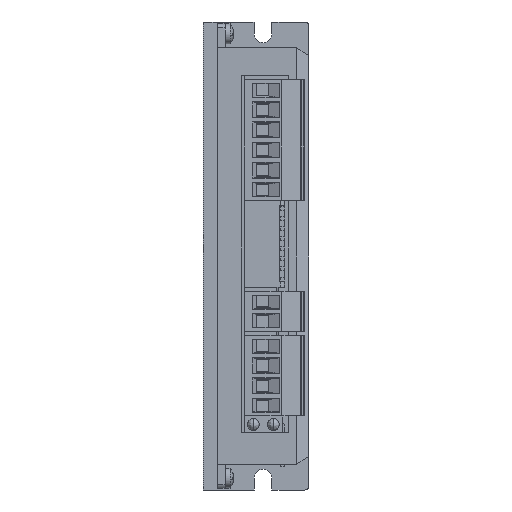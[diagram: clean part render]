
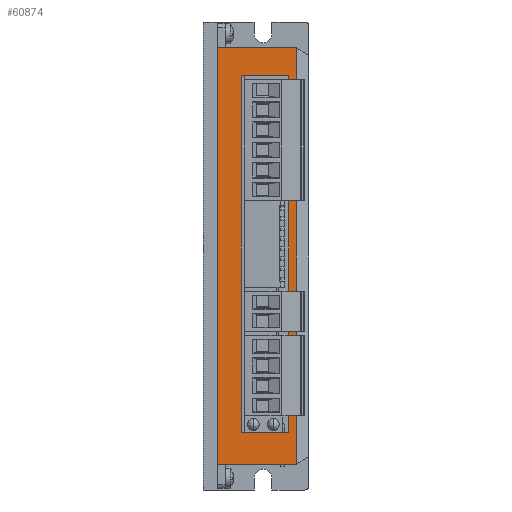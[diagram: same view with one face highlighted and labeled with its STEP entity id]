
A CAD part, front view. The second image highlights one B-rep face of the part: STEP entity #60874.
In plain terms, the highlighted planar face has unit normal (0, -1, 0) as drawn and (0, 0, 1) by its records, which use the part's own axes.
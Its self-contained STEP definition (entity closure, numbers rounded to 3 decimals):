
#186 = VERTEX_POINT ( 'NONE', #73413 ) ;
#622 = VECTOR ( 'NONE', #72008, 1000. ) ;
#3859 = DIRECTION ( 'NONE',  ( 0., 0., 1. ) ) ;
#5616 = VECTOR ( 'NONE', #38805, 1000. ) ;
#6799 = ORIENTED_EDGE ( 'NONE', *, *, #71949, .T. ) ;
#8024 = ORIENTED_EDGE ( 'NONE', *, *, #9293, .T. ) ;
#9171 = LINE ( 'NONE', #33129, #5616 ) ;
#9293 = EDGE_CURVE ( 'NONE', #51258, #64826, #45501, .T. ) ;
#10274 = LINE ( 'NONE', #20723, #70632 ) ;
#11614 = CARTESIAN_POINT ( 'NONE',  ( 52.5, 8.5, 72. ) ) ;
#11939 = VERTEX_POINT ( 'NONE', #73100 ) ;
#12489 = CARTESIAN_POINT ( 'NONE',  ( 52.5, 8.5, 72. ) ) ;
#12847 = EDGE_LOOP ( 'NONE', ( #42605, #8024, #51454, #6799 ) ) ;
#13806 = ORIENTED_EDGE ( 'NONE', *, *, #66854, .T. ) ;
#15055 = EDGE_LOOP ( 'NONE', ( #46915, #43273, #13806, #27266 ) ) ;
#15324 = FACE_BOUND ( 'NONE', #15055, .T. ) ;
#15791 = VECTOR ( 'NONE', #52722, 1000. ) ;
#17238 = CARTESIAN_POINT ( 'NONE',  ( 44.5, 6.5, 72. ) ) ;
#18547 = AXIS2_PLACEMENT_3D ( 'NONE', #20724, #3859, #43498 ) ;
#20723 = CARTESIAN_POINT ( 'NONE',  ( 44.5, -11.5, 72. ) ) ;
#20724 = CARTESIAN_POINT ( 'NONE',  ( 52.5, -11.5, 72. ) ) ;
#22017 = CARTESIAN_POINT ( 'NONE',  ( -45.5, -11.5, 72. ) ) ;
#22927 = EDGE_CURVE ( 'NONE', #186, #35649, #45847, .T. ) ;
#27266 = ORIENTED_EDGE ( 'NONE', *, *, #60527, .T. ) ;
#28641 = FACE_OUTER_BOUND ( 'NONE', #12847, .T. ) ;
#30429 = VECTOR ( 'NONE', #50460, 1000. ) ;
#33129 = CARTESIAN_POINT ( 'NONE',  ( 52.5, -5.5, 72. ) ) ;
#33790 = LINE ( 'NONE', #12489, #47112 ) ;
#35021 = VECTOR ( 'NONE', #43694, 1000. ) ;
#35625 = CARTESIAN_POINT ( 'NONE',  ( 52.5, -11.5, 72. ) ) ;
#35649 = VERTEX_POINT ( 'NONE', #17238 ) ;
#37926 = CARTESIAN_POINT ( 'NONE',  ( 52.5, 6.5, 72. ) ) ;
#37977 = CARTESIAN_POINT ( 'NONE',  ( 52.5, -11.5, 72. ) ) ;
#38749 = CARTESIAN_POINT ( 'NONE',  ( 44.5, -5.5, 72. ) ) ;
#38805 = DIRECTION ( 'NONE',  ( -1., 0., 0. ) ) ;
#40785 = CARTESIAN_POINT ( 'NONE',  ( 52.5, -11.5, 72. ) ) ;
#42605 = ORIENTED_EDGE ( 'NONE', *, *, #45466, .T. ) ;
#43273 = ORIENTED_EDGE ( 'NONE', *, *, #51976, .T. ) ;
#43498 = DIRECTION ( 'NONE',  ( 1., 0., 0. ) ) ;
#43694 = DIRECTION ( 'NONE',  ( 1., 0., 0. ) ) ;
#44608 = VECTOR ( 'NONE', #73402, 1000. ) ;
#45466 = EDGE_CURVE ( 'NONE', #51759, #51258, #33790, .T. ) ;
#45501 = LINE ( 'NONE', #55933, #30429 ) ;
#45847 = LINE ( 'NONE', #37926, #622 ) ;
#46099 = CARTESIAN_POINT ( 'NONE',  ( -52.5, 8.5, 72. ) ) ;
#46915 = ORIENTED_EDGE ( 'NONE', *, *, #22927, .T. ) ;
#47112 = VECTOR ( 'NONE', #57872, 1000. ) ;
#50460 = DIRECTION ( 'NONE',  ( 0., -1., 0. ) ) ;
#51258 = VERTEX_POINT ( 'NONE', #46099 ) ;
#51454 = ORIENTED_EDGE ( 'NONE', *, *, #67127, .T. ) ;
#51759 = VERTEX_POINT ( 'NONE', #11614 ) ;
#51848 = VERTEX_POINT ( 'NONE', #40785 ) ;
#51976 = EDGE_CURVE ( 'NONE', #35649, #59398, #10274, .T. ) ;
#52722 = DIRECTION ( 'NONE',  ( 0., 1., 0. ) ) ;
#55933 = CARTESIAN_POINT ( 'NONE',  ( -52.5, -11.5, 72. ) ) ;
#57872 = DIRECTION ( 'NONE',  ( -1., 0., 0. ) ) ;
#58500 = CARTESIAN_POINT ( 'NONE',  ( -52.5, -11.5, 72. ) ) ;
#59398 = VERTEX_POINT ( 'NONE', #38749 ) ;
#59739 = LINE ( 'NONE', #22017, #44608 ) ;
#60411 = DIRECTION ( 'NONE',  ( 0., -1., 0. ) ) ;
#60527 = EDGE_CURVE ( 'NONE', #11939, #186, #59739, .T. ) ;
#60874 = ADVANCED_FACE ( 'NONE', ( #15324, #28641 ), #66089, .T. ) ;
#61070 = LINE ( 'NONE', #35625, #15791 ) ;
#64826 = VERTEX_POINT ( 'NONE', #58500 ) ;
#65198 = LINE ( 'NONE', #37977, #35021 ) ;
#66089 = PLANE ( 'NONE',  #18547 ) ;
#66854 = EDGE_CURVE ( 'NONE', #59398, #11939, #9171, .T. ) ;
#67127 = EDGE_CURVE ( 'NONE', #64826, #51848, #65198, .T. ) ;
#70632 = VECTOR ( 'NONE', #60411, 1000. ) ;
#71949 = EDGE_CURVE ( 'NONE', #51848, #51759, #61070, .T. ) ;
#72008 = DIRECTION ( 'NONE',  ( 1., 0., 0. ) ) ;
#73100 = CARTESIAN_POINT ( 'NONE',  ( -45.5, -5.5, 72. ) ) ;
#73402 = DIRECTION ( 'NONE',  ( 0., 1., 0. ) ) ;
#73413 = CARTESIAN_POINT ( 'NONE',  ( -45.5, 6.5, 72. ) ) ;
